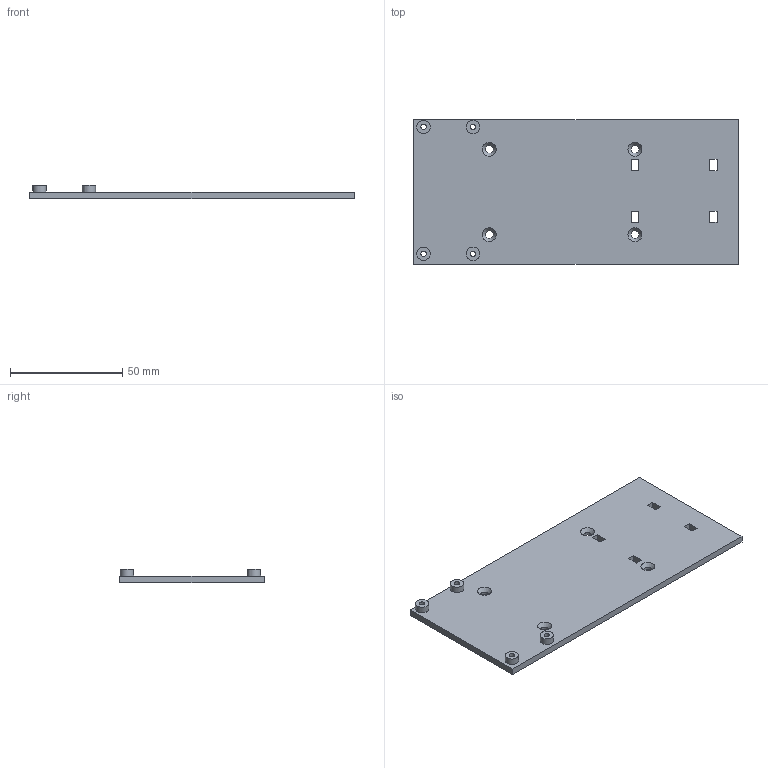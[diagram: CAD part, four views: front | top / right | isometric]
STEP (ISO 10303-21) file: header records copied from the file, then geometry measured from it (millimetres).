
FILE_DESCRIPTION(('FreeCAD Model'),'2;1');
FILE_NAME('Open CASCADE Shape Model','2026-09-11T17:58:35',( '' ),( '' ),'Open CASCADE STEP processor 7.8','FreeCAD','Unknown');
FILE_SCHEMA(('AUTOMOTIVE_DESIGN { 1 0 10303 214 1 1 1 1 }'));
Length unit declared in the file: millimetre
Products named in the file (1): Open CASCADE STEP translator 7.8 6
Bounding box: 144.8 x 64.6 x 6 mm (x, y, z)
Volume: 27911.5 mm3; surface area: 20433.5 mm2
Topology: 1 solids, 1 shells, 42 faces, 108 edges, 72 vertices
Faces by surface type: plane 26, cylinder 12, cone 4
Full cylindrical faces by diameter (mm): 2.4 x4, 3.6 x4, 6 x4
Entity records: 1342 total; most frequent: DIRECTION 226, CARTESIAN_POINT 223, ORIENTED_EDGE 216, EDGE_CURVE 108, LINE 76, VECTOR 76, AXIS2_PLACEMENT_3D 75, VERTEX_POINT 72
